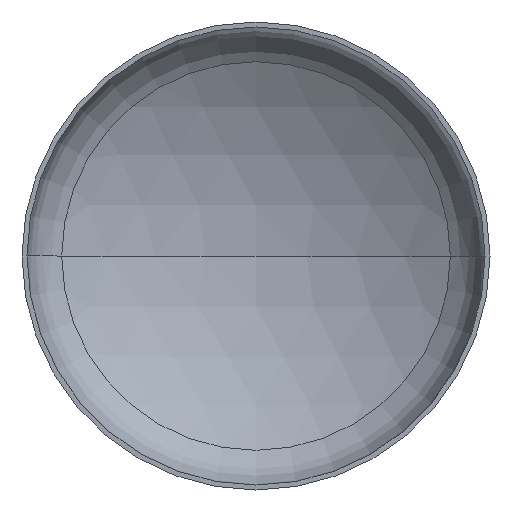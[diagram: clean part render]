
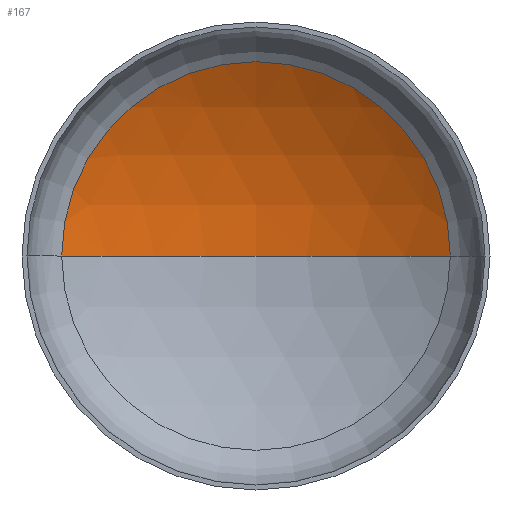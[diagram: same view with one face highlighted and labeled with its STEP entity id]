
A CAD part, front view. The second image highlights one B-rep face of the part: STEP entity #167.
In plain terms, the highlighted spherical face has radius 2720 mm.
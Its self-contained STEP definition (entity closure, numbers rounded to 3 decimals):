
#7 = EDGE_LOOP ( 'NONE', ( #110, #126, #130 ) ) ;
#8 = CARTESIAN_POINT ( 'NONE',  ( 0., 558.786, 0. ) ) ;
#15 = DIRECTION ( 'NONE',  ( 0., -1., 0. ) ) ;
#29 = AXIS2_PLACEMENT_3D ( 'NONE', #213, #191, #237 ) ;
#36 = AXIS2_PLACEMENT_3D ( 'NONE', #226, #228, #239 ) ;
#38 = AXIS2_PLACEMENT_3D ( 'NONE', #297, #296, #265 ) ;
#41 = AXIS2_PLACEMENT_3D ( 'NONE', #8, #15, #231 ) ;
#77 = VERTEX_POINT ( 'NONE', #313 ) ;
#110 = ORIENTED_EDGE ( 'NONE', *, *, #168, .F. ) ;
#118 = EDGE_CURVE ( 'NONE', #77, #134, #361, .T. ) ;
#124 = VERTEX_POINT ( 'NONE', #302 ) ;
#126 = ORIENTED_EDGE ( 'NONE', *, *, #155, .T. ) ;
#130 = ORIENTED_EDGE ( 'NONE', *, *, #118, .T. ) ;
#131 = CARTESIAN_POINT ( 'NONE',  ( -1411.426, 558.786, 0. ) ) ;
#134 = VERTEX_POINT ( 'NONE', #131 ) ;
#155 = EDGE_CURVE ( 'NONE', #124, #77, #173, .T. ) ;
#167 = ADVANCED_FACE ( 'NONE', ( #243 ), #410, .F. ) ;
#168 = EDGE_CURVE ( 'NONE', #124, #134, #292, .T. ) ;
#173 = CIRCLE ( 'NONE', #36, 2720. ) ;
#191 = DIRECTION ( 'NONE',  ( 0., 0., -1. ) ) ;
#213 = CARTESIAN_POINT ( 'NONE',  ( 0., -1766.354, 0. ) ) ;
#226 = CARTESIAN_POINT ( 'NONE',  ( 0., -1766.354, 0. ) ) ;
#228 = DIRECTION ( 'NONE',  ( 0., 0., -1. ) ) ;
#231 = DIRECTION ( 'NONE',  ( 1., 0., 0. ) ) ;
#237 = DIRECTION ( 'NONE',  ( -1., 0., 0. ) ) ;
#239 = DIRECTION ( 'NONE',  ( -1., 0., 0. ) ) ;
#243 = FACE_OUTER_BOUND ( 'NONE', #7, .T. ) ;
#265 = DIRECTION ( 'NONE',  ( 1., 0., 0. ) ) ;
#292 = CIRCLE ( 'NONE', #38, 2720. ) ;
#296 = DIRECTION ( 'NONE',  ( 0., 0., 1. ) ) ;
#297 = CARTESIAN_POINT ( 'NONE',  ( 0., -1766.354, 0. ) ) ;
#302 = CARTESIAN_POINT ( 'NONE',  ( 0., 953.646, 0. ) ) ;
#313 = CARTESIAN_POINT ( 'NONE',  ( 1411.426, 558.786, 0. ) ) ;
#361 = CIRCLE ( 'NONE', #41, 1411.426 ) ;
#410 = SPHERICAL_SURFACE ( 'NONE', #29, 2720. ) ;
